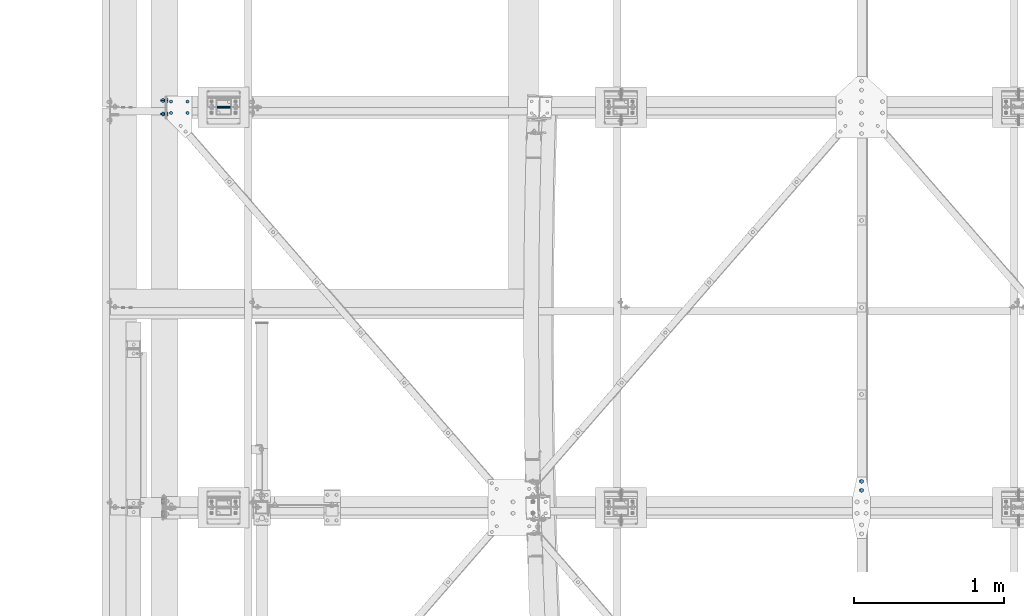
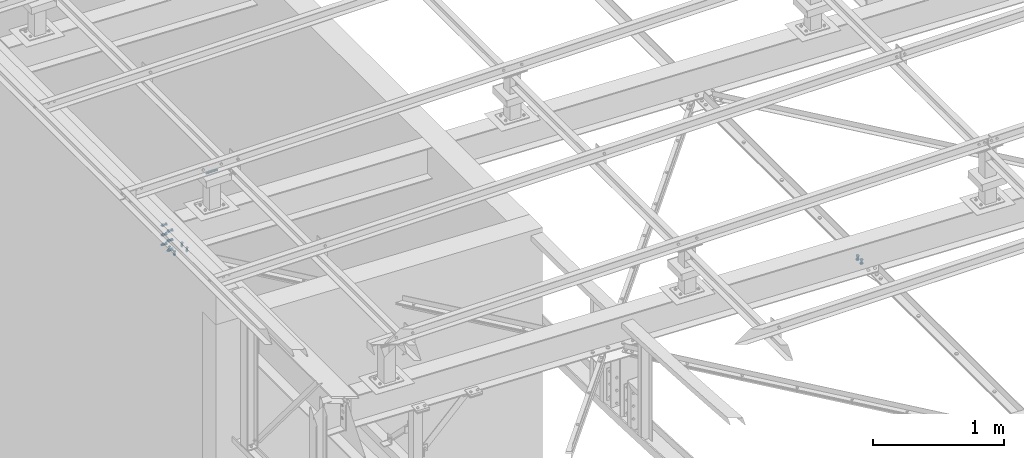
# One storey, part 166 of 3134: 4 mechanical fasteners, 4 elements without a shape of their own.
"""IFC2X3 building model written with IfcOpenShell, lengths in millimetres."""

from ifc_helpers import new_model, si_unit, frame, origin_with_axes, place, context, subcontext, project, spatial, faceted_brep, source, transform, mapped, material, type_object, element, aggregate, save


model = new_model("IFC2X3")

# Units and contexts
model_context = context("Model", 3, precision=1e-05, world=origin_with_axes())
body_context = subcontext(model_context, "Body", "Model", "MODEL_VIEW")
ifc_project = project(units=[si_unit("LENGTHUNIT", "METRE", prefix="MILLI"), si_unit("AREAUNIT", "SQUARE_METRE"), si_unit("VOLUMEUNIT", "CUBIC_METRE"), si_unit("MASSUNIT", "GRAM", prefix="KILO"), si_unit("TIMEUNIT", "SECOND"), si_unit("PLANEANGLEUNIT", "RADIAN"), si_unit("SOLIDANGLEUNIT", "STERADIAN"), si_unit("THERMODYNAMICTEMPERATUREUNIT", "DEGREE_CELSIUS"), si_unit("LUMINOUSINTENSITYUNIT", "LUMEN")], contexts=[model_context])

# Site, building, storey
site_placement = place(None, origin_with_axes())
site = spatial("IfcSite", under=ifc_project, at=site_placement, CompositionType="ELEMENT")
building_placement = place(site_placement, origin_with_axes())
building = spatial("IfcBuilding", under=site, at=building_placement, Name="Undefined", CompositionType="ELEMENT")
storey_placement = place(building_placement, origin_with_axes())
storey = spatial("IfcBuildingStorey", under=building, at=storey_placement, Name="Undefined", CompositionType="ELEMENT", Elevation=0.0)

# Assembly, mechanical fastener
assembly_1_placement = place(storey_placement, origin_with_axes())
assembly_1 = element("IfcElementAssembly", 1, at=assembly_1_placement, inside=storey, Name="PL8", AssemblyPlace="NOTDEFINED", PredefinedType="RIGID_FRAME")
ifc_material = material(Name="8.8")
mechanical_fastener_type = type_object("IfcMechanicalFastenerType", Name="Bolt assembly")
shared_shape_1 = source(origin_with_axes(), body_context, "Body", "Brep", [
    faceted_brep([(10.9696551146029, -21.2000017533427, 0.0), (5.48482755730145, -21.2000017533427, 9.5), (-5.48482755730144, -21.2000017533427, 9.5), (-10.9696551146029, -21.2000017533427, 1.34339530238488e-15), (-5.48482755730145, -21.2000017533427, -9.5), (5.48482755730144, -21.2000017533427, -9.50000000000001), (5.48482755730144, -13.2000017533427, -9.50000000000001), (-5.48482755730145, -13.2000017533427, -9.5), (-10.9696551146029, -13.2000017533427, 1.34339530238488e-15), (-5.48482755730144, -13.2000017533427, 9.5), (5.48482755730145, -13.2000017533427, 9.5), (10.9696551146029, -13.2000017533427, 0.0), (6.0, -13.2000017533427, 0.0), (5.19615242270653, -13.2000017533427, 3.00000000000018), (2.99999999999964, -13.2000017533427, 5.19615242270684), (-6.21801588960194e-13, -13.2000017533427, 6.0), (-3.00000000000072, -13.2000017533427, 5.19615242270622), (-5.19615242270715, -13.2000017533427, 2.9999999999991), (-6.0, -13.2000017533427, -1.24360317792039e-12), (-5.19615242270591, -13.2000017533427, -3.00000000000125), (-2.99999999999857, -13.2000017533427, -5.19615242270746), (1.85874342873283e-12, -13.2000017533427, -6.0), (3.00000000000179, -13.2000017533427, -5.1961524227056), (5.19615242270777, -13.2000017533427, -2.99999999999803), (5.19615242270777, 21.7999982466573, -2.99999999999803), (3.00000000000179, 21.7999982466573, -5.1961524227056), (1.85874342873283e-12, 21.7999982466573, -6.0), (-2.99999999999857, 21.7999982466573, -5.19615242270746), (-5.19615242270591, 21.7999982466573, -3.00000000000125), (-6.0, 21.7999982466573, -1.24360317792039e-12), (-5.19615242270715, 21.7999982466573, 2.9999999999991), (-3.00000000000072, 21.7999982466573, 5.19615242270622), (-6.21801588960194e-13, 21.7999982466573, 6.0), (2.99999999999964, 21.7999982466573, 5.19615242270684), (5.19615242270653, 21.7999982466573, 3.00000000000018), (6.0, 21.7999982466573, 0.0), (10.9696551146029, 4.00000000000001, 0.0), (5.48482755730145, 4.00000000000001, 9.5), (-5.48482755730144, 4.00000000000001, 9.5), (-10.9696551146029, 4.00000000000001, 1.34339530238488e-15), (-5.48482755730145, 4.00000000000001, -9.5), (5.48482755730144, 4.00000000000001, -9.50000000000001), (5.48482755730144, 14.0, -9.50000000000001), (-5.48482755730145, 14.0, -9.5), (-10.9696551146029, 14.0, 1.34339530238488e-15), (-5.48482755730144, 14.0, 9.5), (5.48482755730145, 14.0, 9.5), (10.9696551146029, 14.0, 0.0)], [[[0, 1, 2, 3, 4, 5]], [[6, 7, 8, 9, 10, 11]], [[0, 11, 10, 1]], [[1, 10, 9, 2]], [[2, 9, 8, 3]], [[3, 8, 7, 4]], [[4, 7, 6, 5]], [[5, 6, 11, 0]], [[12, 13, 14, 15, 16, 17, 18, 19, 20, 21, 22, 23]], [[24, 25, 26, 27, 28, 29, 30, 31, 32, 33, 34, 35]], [[12, 35, 34, 13]], [[13, 34, 33, 14]], [[14, 33, 32, 15]], [[15, 32, 31, 16]], [[16, 31, 30, 17]], [[17, 30, 29, 18]], [[18, 29, 28, 19]], [[19, 28, 27, 20]], [[20, 27, 26, 21]], [[21, 26, 25, 22]], [[22, 25, 24, 23]], [[23, 24, 35, 12]], [[36, 37, 38, 39, 40, 41]], [[42, 43, 44, 45, 46, 47]], [[36, 47, 46, 37]], [[37, 46, 45, 38]], [[38, 45, 44, 39]], [[39, 44, 43, 40]], [[40, 43, 42, 41]], [[41, 42, 47, 36]]]),
    faceted_brep([(7.0, -13.1000017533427, 0.0), (6.06217782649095, -13.1000017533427, 3.50000000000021), (3.49999999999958, -13.1000017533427, 6.06217782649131), (-7.25435187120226e-13, -13.1000017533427, 7.0), (-3.50000000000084, -13.1000017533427, 6.06217782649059), (-6.06217782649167, -13.1000017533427, 3.49999999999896), (-7.0, -13.1000017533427, -1.45087037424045e-12), (-6.06217782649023, -13.1000017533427, -3.50000000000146), (-3.49999999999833, -13.1000017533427, -6.06217782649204), (2.1685340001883e-12, -13.1000017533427, -7.0), (3.50000000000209, -13.1000017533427, -6.06217782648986), (6.0621778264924, -13.1000017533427, -3.4999999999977), (6.0621778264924, -3.9, -3.4999999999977), (3.50000000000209, -3.9, -6.06217782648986), (2.1685340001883e-12, -3.9, -7.0), (-3.49999999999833, -3.9, -6.06217782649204), (-6.06217782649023, -3.9, -3.50000000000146), (-7.0, -3.9, -1.45087037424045e-12), (-6.06217782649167, -3.9, 3.49999999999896), (-3.50000000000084, -3.9, 6.06217782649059), (-7.25435187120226e-13, -3.9, 7.0), (3.49999999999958, -3.9, 6.06217782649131), (6.06217782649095, -3.9, 3.50000000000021), (7.0, -3.9, 0.0), (7.0, -4.09998541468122, 0.0), (6.06217782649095, -4.09998541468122, 3.50000000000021), (3.49999999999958, -4.09998541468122, 6.06217782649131), (-7.25435187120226e-13, -4.09998541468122, 7.0), (-3.50000000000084, -4.09998541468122, 6.06217782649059), (-6.06217782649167, -4.09998541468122, 3.49999999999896), (-7.0, -4.09998541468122, -1.45087037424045e-12), (-6.06217782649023, -4.09998541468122, -3.50000000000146), (-3.49999999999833, -4.09998541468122, -6.06217782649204), (2.1685340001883e-12, -4.09998541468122, -7.0), (3.50000000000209, -4.09998541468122, -6.06217782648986), (6.0621778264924, -4.09998541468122, -3.4999999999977), (6.0621778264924, 4.00000000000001, -3.4999999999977), (3.50000000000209, 4.00000000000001, -6.06217782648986), (2.1685340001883e-12, 4.00000000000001, -7.0), (-3.49999999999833, 4.00000000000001, -6.06217782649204), (-6.06217782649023, 4.00000000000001, -3.50000000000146), (-7.0, 4.00000000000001, -1.45087037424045e-12), (-6.06217782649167, 4.00000000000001, 3.49999999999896), (-3.50000000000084, 4.00000000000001, 6.06217782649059), (-7.25435187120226e-13, 4.00000000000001, 7.0), (3.49999999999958, 4.00000000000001, 6.06217782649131), (6.06217782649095, 4.00000000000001, 3.50000000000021), (7.0, 4.00000000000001, 0.0)], [[[0, 1, 2, 3, 4, 5, 6, 7, 8, 9, 10, 11]], [[12, 13, 14, 15, 16, 17, 18, 19, 20, 21, 22, 23]], [[0, 23, 22, 1]], [[1, 22, 21, 2]], [[2, 21, 20, 3]], [[3, 20, 19, 4]], [[4, 19, 18, 5]], [[5, 18, 17, 6]], [[6, 17, 16, 7]], [[7, 16, 15, 8]], [[8, 15, 14, 9]], [[9, 14, 13, 10]], [[10, 13, 12, 11]], [[11, 12, 23, 0]], [[24, 25, 26, 27, 28, 29, 30, 31, 32, 33, 34, 35]], [[36, 37, 38, 39, 40, 41, 42, 43, 44, 45, 46, 47]], [[24, 47, 46, 25]], [[25, 46, 45, 26]], [[26, 45, 44, 27]], [[27, 44, 43, 28]], [[28, 43, 42, 29]], [[29, 42, 41, 30]], [[30, 41, 40, 31]], [[31, 40, 39, 32]], [[32, 39, 38, 33]], [[33, 38, 37, 34]], [[34, 37, 36, 35]], [[35, 36, 47, 24]]]),
])
mechanical_fastener_1_placement = place(assembly_1_placement, frame((98.8101435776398, 34950.5, 3735.35728006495), z_axis=(0.999388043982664, 0.0, -0.0349791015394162), x_axis=(0.0, -1.0, 0.0)))
mechanical_fastener_1 = element("IfcMechanicalFastener", 2, at=mechanical_fastener_1_placement, type_object=mechanical_fastener_type, material=ifc_material, Name="Bolt assembly", NominalDiameter=12.0, NominalLength=35.0, context=body_context, shape_type="MappedRepresentation", body=[
    mapped(shared_shape_1, transform((0.0, 2.29192664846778e-10, 55.0000000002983))),
    mapped(shared_shape_1, transform((76.0, 2.29192664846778e-10, 55.0000000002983))),
    mapped(shared_shape_1, transform((0.0, -2.31011654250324e-10, -55.0000000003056))),
    mapped(shared_shape_1, transform((76.0, -2.31011654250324e-10, -55.0000000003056))),
])
aggregate(assembly_1, [mechanical_fastener_1])

assembly_2_placement = place(storey_placement, origin_with_axes())
assembly_2 = element("IfcElementAssembly", 3, at=assembly_2_placement, inside=storey, Name="PL8", AssemblyPlace="NOTDEFINED", PredefinedType="RIGID_FRAME")
shared_shape_2 = source(origin_with_axes(), body_context, "Body", "Brep", [
    faceted_brep([(13.856406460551, -21.0000017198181, 0.0), (6.92820323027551, -21.0000017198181, 12.0), (-6.92820323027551, -21.0000017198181, 12.0), (-13.856406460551, -21.0000017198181, 1.69692038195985e-15), (-6.92820323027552, -21.0000017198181, -12.0), (6.9282032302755, -21.0000017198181, -12.0), (6.9282032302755, -11.0000017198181, -12.0), (-6.92820323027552, -11.0000017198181, -12.0), (-13.856406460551, -11.0000017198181, 1.69692038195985e-15), (-6.92820323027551, -11.0000017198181, 12.0), (6.92820323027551, -11.0000017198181, 12.0), (13.856406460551, -11.0000017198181, 0.0), (8.0, -11.0000017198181, 0.0), (6.92820323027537, -11.0000017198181, 4.00000000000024), (3.99999999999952, -11.0000017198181, 6.92820323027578), (-8.29068785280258e-13, -11.0000017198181, 8.0), (-4.00000000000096, -11.0000017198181, 6.92820323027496), (-6.9282032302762, -11.0000017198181, 3.99999999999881), (-8.0, -11.0000017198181, -1.65813757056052e-12), (-6.92820323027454, -11.0000017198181, -4.00000000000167), (-3.99999999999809, -11.0000017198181, -6.92820323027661), (2.47832457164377e-12, -11.0000017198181, -8.0), (4.00000000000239, -11.0000017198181, -6.92820323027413), (6.92820323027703, -11.0000017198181, -3.99999999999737), (6.92820323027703, 29.0, -3.99999999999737), (4.00000000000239, 29.0, -6.92820323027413), (2.47832457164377e-12, 29.0, -8.0), (-3.99999999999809, 29.0, -6.92820323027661), (-6.92820323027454, 29.0, -4.00000000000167), (-8.0, 29.0, -1.65813757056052e-12), (-6.9282032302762, 29.0, 3.99999999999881), (-4.00000000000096, 29.0, 6.92820323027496), (-8.29068785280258e-13, 29.0, 8.0), (3.99999999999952, 29.0, 6.92820323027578), (6.92820323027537, 29.0, 4.00000000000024), (8.0, 29.0, 0.0), (13.856406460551, 10.9999982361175, 0.0), (6.92820323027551, 10.9999982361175, 12.0), (-6.92820323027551, 10.9999982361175, 12.0), (-13.856406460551, 10.9999982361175, 1.69692038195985e-15), (-6.92820323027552, 10.9999982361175, -12.0), (6.9282032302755, 10.9999982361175, -12.0), (6.9282032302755, 23.9999999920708, -12.0), (-6.92820323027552, 23.9999999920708, -12.0), (-13.856406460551, 23.9999999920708, 1.69692038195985e-15), (-6.92820323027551, 23.9999999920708, 12.0), (6.92820323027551, 23.9999999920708, 12.0), (13.856406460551, 23.9999999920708, 0.0)], [[[0, 1, 2, 3, 4, 5]], [[6, 7, 8, 9, 10, 11]], [[0, 11, 10, 1]], [[1, 10, 9, 2]], [[2, 9, 8, 3]], [[3, 8, 7, 4]], [[4, 7, 6, 5]], [[5, 6, 11, 0]], [[12, 13, 14, 15, 16, 17, 18, 19, 20, 21, 22, 23]], [[24, 25, 26, 27, 28, 29, 30, 31, 32, 33, 34, 35]], [[12, 35, 34, 13]], [[13, 34, 33, 14]], [[14, 33, 32, 15]], [[15, 32, 31, 16]], [[16, 31, 30, 17]], [[17, 30, 29, 18]], [[18, 29, 28, 19]], [[19, 28, 27, 20]], [[20, 27, 26, 21]], [[21, 26, 25, 22]], [[22, 25, 24, 23]], [[23, 24, 35, 12]], [[36, 37, 38, 39, 40, 41]], [[42, 43, 44, 45, 46, 47]], [[36, 47, 46, 37]], [[37, 46, 45, 38]], [[38, 45, 44, 39]], [[39, 44, 43, 40]], [[40, 43, 42, 41]], [[41, 42, 47, 36]]]),
    faceted_brep([(9.0, -10.9000017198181, 0.0), (7.79422863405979, -10.9000017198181, 4.50000000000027), (4.49999999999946, -10.9000017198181, 7.79422863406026), (-9.3270238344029e-13, -10.9000017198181, 9.0), (-4.50000000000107, -10.9000017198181, 7.79422863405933), (-7.79422863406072, -10.9000017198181, 4.49999999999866), (-9.0, -10.9000017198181, -1.86540476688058e-12), (-7.79422863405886, -10.9000017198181, -4.50000000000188), (-4.49999999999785, -10.9000017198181, -7.79422863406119), (2.78811514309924e-12, -10.9000017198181, -9.0), (4.50000000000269, -10.9000017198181, -7.7942286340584), (7.79422863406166, -10.9000017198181, -4.49999999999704), (7.79422863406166, -3.9, -4.49999999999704), (4.50000000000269, -3.9, -7.7942286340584), (2.78811514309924e-12, -3.9, -9.0), (-4.49999999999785, -3.9, -7.79422863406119), (-7.79422863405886, -3.9, -4.50000000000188), (-9.0, -3.9, -1.86540476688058e-12), (-7.79422863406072, -3.9, 4.49999999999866), (-4.50000000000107, -3.9, 7.79422863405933), (-9.3270238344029e-13, -3.9, 9.0), (4.49999999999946, -3.9, 7.79422863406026), (7.79422863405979, -3.9, 4.50000000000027), (9.0, -3.9, 0.0), (9.0, -3.99999624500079, 0.0), (7.79422863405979, -3.99999624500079, 4.50000000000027), (4.49999999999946, -3.99999624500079, 7.79422863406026), (-9.3270238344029e-13, -3.99999624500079, 9.0), (-4.50000000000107, -3.99999624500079, 7.79422863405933), (-7.79422863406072, -3.99999624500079, 4.49999999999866), (-9.0, -3.99999624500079, -1.86540476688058e-12), (-7.79422863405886, -3.99999624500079, -4.50000000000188), (-4.49999999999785, -3.99999624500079, -7.79422863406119), (2.78811514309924e-12, -3.99999624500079, -9.0), (4.50000000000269, -3.99999624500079, -7.7942286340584), (7.79422863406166, -3.99999624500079, -4.49999999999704), (7.79422863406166, 4.00000375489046, -4.49999999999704), (4.50000000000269, 4.00000375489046, -7.7942286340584), (2.78811514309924e-12, 4.00000375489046, -9.0), (-4.49999999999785, 4.00000375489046, -7.79422863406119), (-7.79422863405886, 4.00000375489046, -4.50000000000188), (-9.0, 4.00000375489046, -1.86540476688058e-12), (-7.79422863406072, 4.00000375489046, 4.49999999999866), (-4.50000000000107, 4.00000375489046, 7.79422863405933), (-9.3270238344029e-13, 4.00000375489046, 9.0), (4.49999999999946, 4.00000375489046, 7.79422863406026), (7.79422863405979, 4.00000375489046, 4.50000000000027), (9.0, 4.00000375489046, 0.0), (9.0, 3.9, 0.0), (7.79422863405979, 3.9, 4.50000000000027), (4.49999999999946, 3.9, 7.79422863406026), (-9.3270238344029e-13, 3.9, 9.0), (-4.50000000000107, 3.9, 7.79422863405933), (-7.79422863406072, 3.9, 4.49999999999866), (-9.0, 3.9, -1.86540476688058e-12), (-7.79422863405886, 3.9, -4.50000000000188), (-4.49999999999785, 3.9, -7.79422863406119), (2.78811514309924e-12, 3.9, -9.0), (4.50000000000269, 3.9, -7.7942286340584), (7.79422863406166, 3.9, -4.49999999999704), (7.79422863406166, 10.9999982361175, -4.49999999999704), (4.50000000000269, 10.9999982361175, -7.7942286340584), (2.78811514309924e-12, 10.9999982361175, -9.0), (-4.49999999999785, 10.9999982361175, -7.79422863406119), (-7.79422863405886, 10.9999982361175, -4.50000000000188), (-9.0, 10.9999982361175, -1.86540476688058e-12), (-7.79422863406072, 10.9999982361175, 4.49999999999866), (-4.50000000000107, 10.9999982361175, 7.79422863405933), (-9.3270238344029e-13, 10.9999982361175, 9.0), (4.49999999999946, 10.9999982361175, 7.79422863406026), (7.79422863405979, 10.9999982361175, 4.50000000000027), (9.0, 10.9999982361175, 0.0)], [[[0, 1, 2, 3, 4, 5, 6, 7, 8, 9, 10, 11]], [[12, 13, 14, 15, 16, 17, 18, 19, 20, 21, 22, 23]], [[0, 23, 22, 1]], [[1, 22, 21, 2]], [[2, 21, 20, 3]], [[3, 20, 19, 4]], [[4, 19, 18, 5]], [[5, 18, 17, 6]], [[6, 17, 16, 7]], [[7, 16, 15, 8]], [[8, 15, 14, 9]], [[9, 14, 13, 10]], [[10, 13, 12, 11]], [[11, 12, 23, 0]], [[24, 25, 26, 27, 28, 29, 30, 31, 32, 33, 34, 35]], [[36, 37, 38, 39, 40, 41, 42, 43, 44, 45, 46, 47]], [[24, 47, 46, 25]], [[25, 46, 45, 26]], [[26, 45, 44, 27]], [[27, 44, 43, 28]], [[28, 43, 42, 29]], [[29, 42, 41, 30]], [[30, 41, 40, 31]], [[31, 40, 39, 32]], [[32, 39, 38, 33]], [[33, 38, 37, 34]], [[34, 37, 36, 35]], [[35, 36, 47, 24]], [[48, 49, 50, 51, 52, 53, 54, 55, 56, 57, 58, 59]], [[60, 61, 62, 63, 64, 65, 66, 67, 68, 69, 70, 71]], [[48, 71, 70, 49]], [[49, 70, 69, 50]], [[50, 69, 68, 51]], [[51, 68, 67, 52]], [[52, 67, 66, 53]], [[53, 66, 65, 54]], [[54, 65, 64, 55]], [[55, 64, 63, 56]], [[56, 63, 62, 57]], [[57, 62, 61, 58]], [[58, 61, 60, 59]], [[59, 60, 71, 48]]]),
])
mechanical_fastener_2_placement = place(assembly_2_placement, frame((4647.50483519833, 32358.75, 3576.15051901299), z_axis=(-0.999388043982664, 0.0, 0.0349791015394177), x_axis=(0.0, 1.0, 0.0)))
mechanical_fastener_2 = element("IfcMechanicalFastener", 4, at=mechanical_fastener_2_placement, type_object=mechanical_fastener_type, material=ifc_material, Name="Bolt assembly", NominalDiameter=16.0, NominalLength=40.0, context=body_context, shape_type="MappedRepresentation", body=[
    mapped(shared_shape_2, transform((0.0, 0.0, 0.0))),
    mapped(shared_shape_2, transform((59.9999999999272, 0.0, 5.40239852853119e-10))),
])
aggregate(assembly_2, [mechanical_fastener_2])

assembly_3_placement = place(storey_placement, origin_with_axes())
assembly_3 = element("IfcElementAssembly", 5, at=assembly_3_placement, inside=storey, AssemblyPlace="NOTDEFINED", PredefinedType="RIGID_FRAME")
shared_shape_3 = source(origin_with_axes(), body_context, "Body", "Brep", [
    faceted_brep([(9.0, -50.0, 0.0), (7.79422863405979, -50.0, 4.50000000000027), (4.49999999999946, -50.0, 7.79422863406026), (-9.3270238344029e-13, -50.0, 9.0), (-4.50000000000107, -50.0, 7.79422863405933), (-7.79422863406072, -50.0, 4.49999999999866), (-9.0, -50.0, -1.86540476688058e-12), (-7.79422863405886, -50.0, -4.50000000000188), (-4.49999999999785, -50.0, -7.79422863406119), (2.78811514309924e-12, -50.0, -9.0), (4.50000000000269, -50.0, -7.7942286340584), (7.79422863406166, -50.0, -4.49999999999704), (7.79422863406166, 50.1, -4.49999999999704), (4.50000000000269, 50.1, -7.7942286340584), (2.78811514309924e-12, 50.1, -9.0), (-4.49999999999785, 50.1, -7.79422863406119), (-7.79422863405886, 50.1, -4.50000000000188), (-9.0, 50.1, -1.86540476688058e-12), (-7.79422863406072, 50.1, 4.49999999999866), (-4.50000000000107, 50.1, 7.79422863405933), (-9.3270238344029e-13, 50.1, 9.0), (4.49999999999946, 50.1, 7.79422863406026), (7.79422863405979, 50.1, 4.50000000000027), (9.0, 50.1, 0.0)], [[[0, 1, 2, 3, 4, 5, 6, 7, 8, 9, 10, 11]], [[12, 13, 14, 15, 16, 17, 18, 19, 20, 21, 22, 23]], [[0, 23, 22, 1]], [[1, 22, 21, 2]], [[2, 21, 20, 3]], [[3, 20, 19, 4]], [[4, 19, 18, 5]], [[5, 18, 17, 6]], [[6, 17, 16, 7]], [[7, 16, 15, 8]], [[8, 15, 14, 9]], [[9, 14, 13, 10]], [[10, 13, 12, 11]], [[11, 12, 23, 0]]]),
])
mechanical_fastener_3_placement = place(assembly_3_placement, frame((395.0, 34912.5, 4351.0), z_axis=(0.0, 1.0, 0.0), x_axis=(0.0, 0.0, 1.0)))
mechanical_fastener_3 = element("IfcMechanicalFastener", 6, at=mechanical_fastener_3_placement, type_object=mechanical_fastener_type, material=ifc_material, Name="Bolt assembly", NominalDiameter=16.0, NominalLength=100.0, context=body_context, shape_type="MappedRepresentation", body=[
    mapped(shared_shape_3, transform((0.0, 0.0, 0.0))),
])
aggregate(assembly_3, [mechanical_fastener_3])

assembly_4_placement = place(storey_placement, origin_with_axes())
assembly_4 = element("IfcElementAssembly", 7, at=assembly_4_placement, inside=storey, Name="IPE400", AssemblyPlace="NOTDEFINED", PredefinedType="RIGID_FRAME")
shared_shape_4 = source(origin_with_axes(), body_context, "Body", "Brep", [
    faceted_brep([(13.856406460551, -10.0, 0.0), (6.92820323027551, -10.0, 12.0), (-6.92820323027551, -10.0, 12.0), (-13.856406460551, -10.0, 1.69692038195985e-15), (-6.92820323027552, -10.0, -12.0), (6.9282032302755, -10.0, -12.0), (6.9282032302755, 0.0, -12.0), (-6.92820323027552, 0.0, -12.0), (-13.856406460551, 0.0, 1.69692038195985e-15), (-6.92820323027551, 0.0, 12.0), (6.92820323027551, 0.0, 12.0), (13.856406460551, 0.0, 0.0), (8.0, 0.0, 0.0), (6.92820323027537, 0.0, 4.00000000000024), (3.99999999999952, 0.0, 6.92820323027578), (-8.29068785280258e-13, 0.0, 8.0), (-4.00000000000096, 0.0, 6.92820323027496), (-6.9282032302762, 0.0, 3.99999999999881), (-8.0, 0.0, -1.65813757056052e-12), (-6.92820323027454, 0.0, -4.00000000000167), (-3.99999999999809, 0.0, -6.92820323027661), (2.47832457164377e-12, 0.0, -8.0), (4.00000000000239, 0.0, -6.92820323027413), (6.92820323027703, 0.0, -3.99999999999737), (6.92820323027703, 40.0, -3.99999999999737), (4.00000000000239, 40.0, -6.92820323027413), (2.47832457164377e-12, 40.0, -8.0), (-3.99999999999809, 40.0, -6.92820323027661), (-6.92820323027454, 40.0, -4.00000000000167), (-8.0, 40.0, -1.65813757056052e-12), (-6.9282032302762, 40.0, 3.99999999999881), (-4.00000000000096, 40.0, 6.92820323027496), (-8.29068785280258e-13, 40.0, 8.0), (3.99999999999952, 40.0, 6.92820323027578), (6.92820323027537, 40.0, 4.00000000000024), (8.0, 40.0, 0.0), (13.856406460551, 18.6000003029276, 0.0), (6.92820323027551, 18.6000003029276, 12.0), (-6.92820323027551, 18.6000003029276, 12.0), (-13.856406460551, 18.6000003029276, 1.69692038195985e-15), (-6.92820323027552, 18.6000003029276, -12.0), (6.9282032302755, 18.6000003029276, -12.0), (6.9282032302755, 31.6000003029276, -12.0), (-6.92820323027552, 31.6000003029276, -12.0), (-13.856406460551, 31.6000003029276, 1.69692038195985e-15), (-6.92820323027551, 31.6000003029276, 12.0), (6.92820323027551, 31.6000003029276, 12.0), (13.856406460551, 31.6000003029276, 0.0)], [[[0, 1, 2, 3, 4, 5]], [[6, 7, 8, 9, 10, 11]], [[0, 11, 10, 1]], [[1, 10, 9, 2]], [[2, 9, 8, 3]], [[3, 8, 7, 4]], [[4, 7, 6, 5]], [[5, 6, 11, 0]], [[12, 13, 14, 15, 16, 17, 18, 19, 20, 21, 22, 23]], [[24, 25, 26, 27, 28, 29, 30, 31, 32, 33, 34, 35]], [[12, 35, 34, 13]], [[13, 34, 33, 14]], [[14, 33, 32, 15]], [[15, 32, 31, 16]], [[16, 31, 30, 17]], [[17, 30, 29, 18]], [[18, 29, 28, 19]], [[19, 28, 27, 20]], [[20, 27, 26, 21]], [[21, 26, 25, 22]], [[22, 25, 24, 23]], [[23, 24, 35, 12]], [[36, 37, 38, 39, 40, 41]], [[42, 43, 44, 45, 46, 47]], [[36, 47, 46, 37]], [[37, 46, 45, 38]], [[38, 45, 44, 39]], [[39, 44, 43, 40]], [[40, 43, 42, 41]], [[41, 42, 47, 36]]]),
    faceted_brep([(9.0, 0.100000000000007, 0.0), (7.79422863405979, 0.100000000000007, 4.50000000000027), (4.49999999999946, 0.100000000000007, 7.79422863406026), (-9.3270238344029e-13, 0.100000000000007, 9.0), (-4.50000000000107, 0.100000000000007, 7.79422863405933), (-7.79422863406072, 0.100000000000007, 4.49999999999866), (-9.0, 0.100000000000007, -1.86540476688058e-12), (-7.79422863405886, 0.100000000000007, -4.50000000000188), (-4.49999999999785, 0.100000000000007, -7.79422863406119), (2.78811514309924e-12, 0.100000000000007, -9.0), (4.50000000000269, 0.100000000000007, -7.7942286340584), (7.79422863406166, 0.100000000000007, -4.49999999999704), (7.79422863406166, 10.1000023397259, -4.49999999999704), (4.50000000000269, 10.1000023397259, -7.7942286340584), (2.78811514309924e-12, 10.1000023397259, -9.0), (-4.49999999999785, 10.1000023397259, -7.79422863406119), (-7.79422863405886, 10.1000023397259, -4.50000000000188), (-9.0, 10.1000023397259, -1.86540476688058e-12), (-7.79422863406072, 10.1000023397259, 4.49999999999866), (-4.50000000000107, 10.1000023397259, 7.79422863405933), (-9.3270238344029e-13, 10.1000023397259, 9.0), (4.49999999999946, 10.1000023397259, 7.79422863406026), (7.79422863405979, 10.1000023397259, 4.50000000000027), (9.0, 10.1000023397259, 0.0), (9.0, 9.89999999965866, 0.0), (7.79422863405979, 9.89999999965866, 4.50000000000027), (4.49999999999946, 9.89999999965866, 7.79422863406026), (-9.3270238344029e-13, 9.89999999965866, 9.0), (-4.50000000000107, 9.89999999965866, 7.79422863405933), (-7.79422863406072, 9.89999999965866, 4.49999999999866), (-9.0, 9.89999999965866, -1.86540476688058e-12), (-7.79422863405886, 9.89999999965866, -4.50000000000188), (-4.49999999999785, 9.89999999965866, -7.79422863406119), (2.78811514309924e-12, 9.89999999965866, -9.0), (4.50000000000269, 9.89999999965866, -7.7942286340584), (7.79422863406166, 9.89999999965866, -4.49999999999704), (7.79422863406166, 18.6000003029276, -4.49999999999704), (4.50000000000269, 18.6000003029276, -7.7942286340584), (2.78811514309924e-12, 18.6000003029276, -9.0), (-4.49999999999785, 18.6000003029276, -7.79422863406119), (-7.79422863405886, 18.6000003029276, -4.50000000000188), (-9.0, 18.6000003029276, -1.86540476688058e-12), (-7.79422863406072, 18.6000003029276, 4.49999999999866), (-4.50000000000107, 18.6000003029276, 7.79422863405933), (-9.3270238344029e-13, 18.6000003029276, 9.0), (4.49999999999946, 18.6000003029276, 7.79422863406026), (7.79422863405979, 18.6000003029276, 4.50000000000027), (9.0, 18.6000003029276, 0.0)], [[[0, 1, 2, 3, 4, 5, 6, 7, 8, 9, 10, 11]], [[12, 13, 14, 15, 16, 17, 18, 19, 20, 21, 22, 23]], [[0, 23, 22, 1]], [[1, 22, 21, 2]], [[2, 21, 20, 3]], [[3, 20, 19, 4]], [[4, 19, 18, 5]], [[5, 18, 17, 6]], [[6, 17, 16, 7]], [[7, 16, 15, 8]], [[8, 15, 14, 9]], [[9, 14, 13, 10]], [[10, 13, 12, 11]], [[11, 12, 23, 0]], [[24, 25, 26, 27, 28, 29, 30, 31, 32, 33, 34, 35]], [[36, 37, 38, 39, 40, 41, 42, 43, 44, 45, 46, 47]], [[24, 47, 46, 25]], [[25, 46, 45, 26]], [[26, 45, 44, 27]], [[27, 44, 43, 28]], [[28, 43, 42, 29]], [[29, 42, 41, 30]], [[30, 41, 40, 31]], [[31, 40, 39, 32]], [[32, 39, 38, 33]], [[33, 38, 37, 34]], [[34, 37, 36, 35]], [[35, 36, 47, 24]]]),
])
mechanical_fastener_4_placement = place(assembly_4_placement, frame((14.300000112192, 34912.5, 3967.31680927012), z_axis=(0.0, 1.0, 0.0), x_axis=(0.0, 0.0, -1.0)))
mechanical_fastener_4 = element("IfcMechanicalFastener", 8, at=mechanical_fastener_4_placement, type_object=mechanical_fastener_type, material=ifc_material, Name="Bolt assembly", NominalDiameter=16.0, NominalLength=40.0, context=body_context, shape_type="MappedRepresentation", body=[
    mapped(shared_shape_4, transform((0.0, 0.0, -45.0))),
    mapped(shared_shape_4, transform((90.0, 0.0, -45.0))),
    mapped(shared_shape_4, transform((180.0, 0.0, -45.0))),
    mapped(shared_shape_4, transform((0.0, 0.0, 45.0))),
    mapped(shared_shape_4, transform((90.0, 0.0, 45.0))),
    mapped(shared_shape_4, transform((180.0, 0.0, 45.0))),
])
aggregate(assembly_4, [mechanical_fastener_4])

save(model, "model.ifc")
